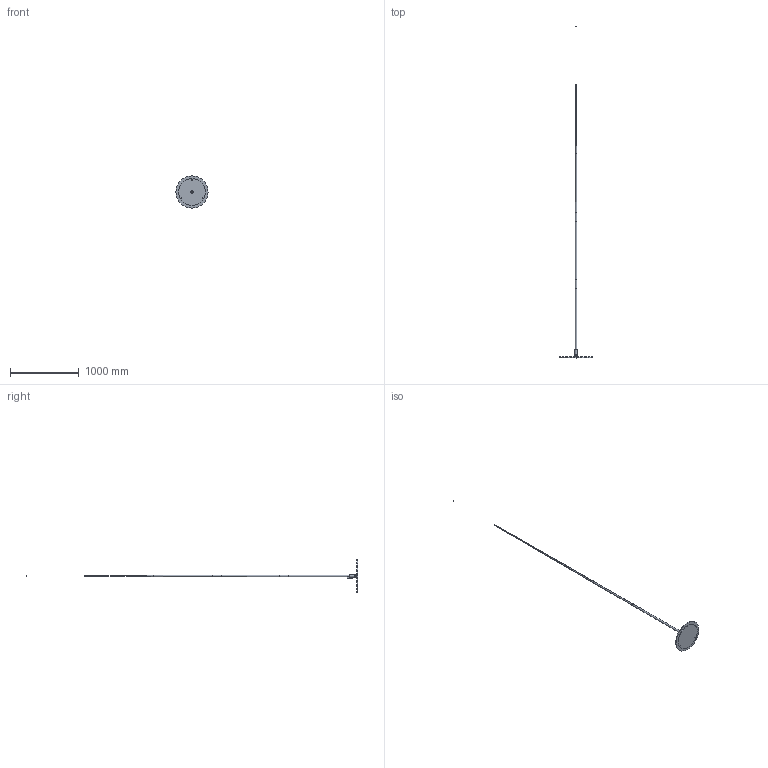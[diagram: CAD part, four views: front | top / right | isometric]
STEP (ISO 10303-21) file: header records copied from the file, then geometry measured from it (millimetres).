
FILE_DESCRIPTION(/* description */ (''),/* implementation_level */ '2;1');
FILE_NAME(/* name */ 'X:\PUBBLICA\_DG USERS\ALBERTO ZANARDI\FILE 3D X SITO\EU\ORIGINE\1A089 - ORIGINE.stp',/* time_stamp */ '2020-05-14T15:49:58+02:00',/* author */ ('a.cavazzi'),/* organization */ (''),/* preprocessor_version */ 'ST-DEVELOPER v18',/* originating_system */ 'Autodesk Inventor 2020',/* authorisation */ '');
FILE_SCHEMA (('AUTOMOTIVE_DESIGN { 1 0 10303 214 3 1 1 }'));
Length unit declared in the file: millimetre
Products named in the file (1): Parte1
Bounding box: 470 x 4841 x 470 mm (x, y, z)
Volume: 3312207.2 mm3; surface area: 1110958 mm2
Topology: 11 solids, 11 shells, 128 faces, 316 edges, 218 vertices
Faces by surface type: plane 51, cylinder 49, cone 16, bspline 6, sphere 4, torus 2
Full cylindrical faces by diameter (mm): 3.242 x5, 4 x2, 4.2 x2, 7 x2, 24 x1, 29 x2, 30 x1, 32 x1, 32.7 x1, 34 x1, 38 x2, 390 x1, 470 x1
Entity records: 4499 total; most frequent: CARTESIAN_POINT 1041, DIRECTION 728, ORIENTED_EDGE 632, EDGE_CURVE 316, AXIS2_PLACEMENT_3D 303, VERTEX_POINT 218, CIRCLE 180, EDGE_LOOP 158
